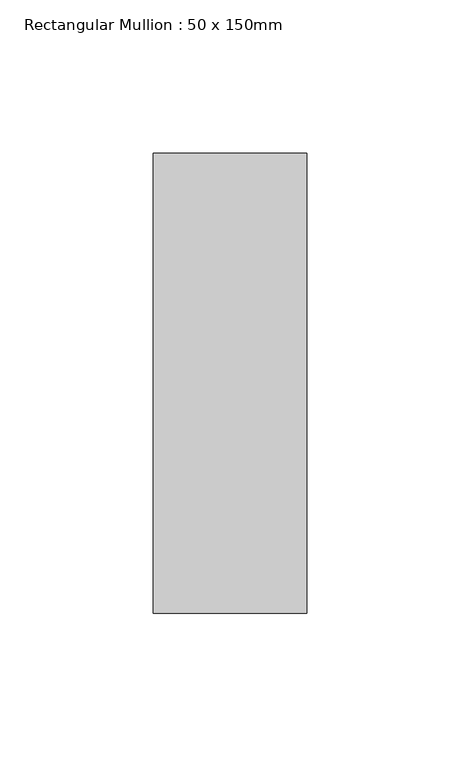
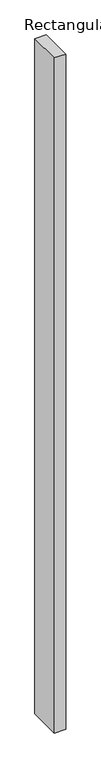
"""IFC4 building model written with IfcOpenShell, lengths in millimetres: member geometry, Rectangular Mullion : 50 x 150mm."""

from ifc_helpers import new_model, si_unit, frame, origin, place, context, project, spatial, polyline, outline, extrude, source, transform, mapped, element, save


def rectangular_mullion_50_x_150mm_eaf4cf72(model_context):
    return source(origin(), model_context, "Body", "SweptSolid", [
        extrude(outline(polyline([(0.0, 75.0), (0.0, -75.0), (-50.0, -75.0), (-50.0, 75.0), (0.0, 75.0)])), frame((0.0, 0.0, -3175.0), z_axis=(0.0, 0.0, 1.0), x_axis=(1.0, 0.0, 0.0)), (0.0, 0.0, 1.0), 3175.0),
    ])


if __name__ == "__main__":
    model = new_model("IFC4")
    model_context = context("Model", 3, world=origin())
    ifc_project = project(units=[si_unit("LENGTHUNIT", "METRE", prefix="MILLI")], contexts=[model_context])
    site = spatial("IfcSite", under=ifc_project)
    building = spatial("IfcBuilding", under=site)
    placement = place(None, origin())
    rectangular_mullion_50_x_150mm_shape = rectangular_mullion_50_x_150mm_eaf4cf72(model_context)
    element("IfcMember", 1, ObjectType="Rectangular Mullion : 50 x 150mm", at=placement, inside=building, context=model_context, shape_type="MappedRepresentation", body=[
        mapped(rectangular_mullion_50_x_150mm_shape, transform((0.0, 0.0, 0.0), x_axis=(1.0, 0.0, 0.0), y_axis=(0.0, 1.0, 0.0), z_axis=(0.0, 0.0, 1.0))),
    ])
    save(model, "model.ifc")
